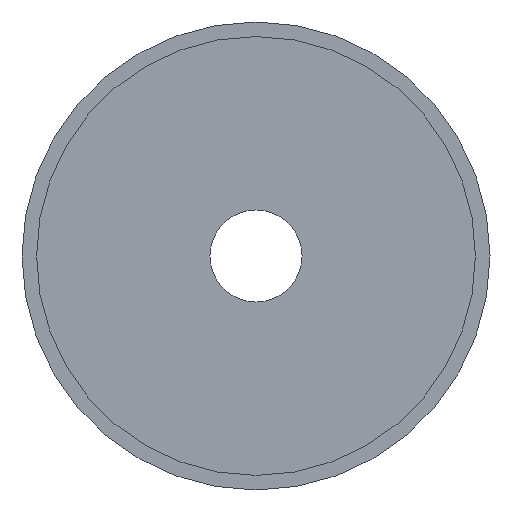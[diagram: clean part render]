
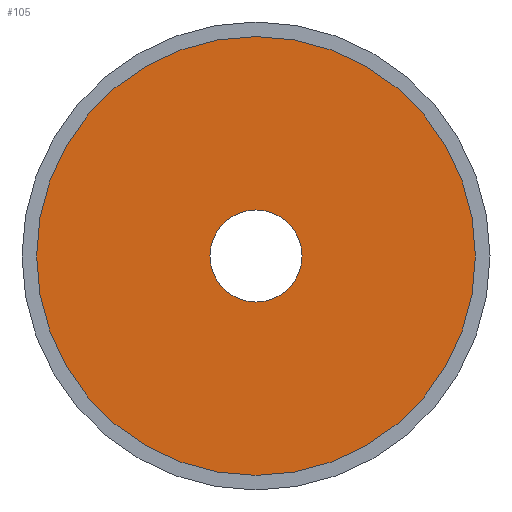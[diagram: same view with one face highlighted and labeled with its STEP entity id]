
A CAD part, left-side view. The second image highlights one B-rep face of the part: STEP entity #105.
In plain terms, the highlighted planar face has unit normal (-1, 0, 0).
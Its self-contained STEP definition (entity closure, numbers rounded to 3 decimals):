
#22 = VERTEX_POINT('',#23);
#23 = CARTESIAN_POINT('',(-5.715,4.763,12.));
#32 = CYLINDRICAL_SURFACE('',#33,4.763);
#33 = AXIS2_PLACEMENT_3D('',#34,#35,#36);
#34 = CARTESIAN_POINT('',(-5.715,0.,12.));
#35 = DIRECTION('',(-1.,-0.,-0.));
#36 = DIRECTION('',(0.,1.,0.));
#79 = EDGE_CURVE('',#22,#22,#80,.T.);
#80 = SURFACE_CURVE('',#81,(#86,#93),.PCURVE_S1.);
#81 = CIRCLE('',#82,4.763);
#82 = AXIS2_PLACEMENT_3D('',#83,#84,#85);
#83 = CARTESIAN_POINT('',(-5.715,0.,12.));
#84 = DIRECTION('',(1.,0.,0.));
#85 = DIRECTION('',(0.,1.,0.));
#86 = PCURVE('',#32,#87);
#87 = DEFINITIONAL_REPRESENTATION('',(#88),#92);
#88 = LINE('',#89,#90);
#89 = CARTESIAN_POINT('',(-0.,0.));
#90 = VECTOR('',#91,1.);
#91 = DIRECTION('',(-1.,0.));
#92 = ( GEOMETRIC_REPRESENTATION_CONTEXT(2) 
PARAMETRIC_REPRESENTATION_CONTEXT() REPRESENTATION_CONTEXT('2D SPACE',''
  ) );
#93 = PCURVE('',#94,#99);
#94 = PLANE('',#95);
#95 = AXIS2_PLACEMENT_3D('',#96,#97,#98);
#96 = CARTESIAN_POINT('',(-5.715,0.,12.));
#97 = DIRECTION('',(1.,0.,0.));
#98 = DIRECTION('',(-0.,0.,1.));
#99 = DEFINITIONAL_REPRESENTATION('',(#100),#104);
#100 = CIRCLE('',#101,4.763);
#101 = AXIS2_PLACEMENT_2D('',#102,#103);
#102 = CARTESIAN_POINT('',(0.,0.));
#103 = DIRECTION('',(0.,-1.));
#104 = ( GEOMETRIC_REPRESENTATION_CONTEXT(2) 
PARAMETRIC_REPRESENTATION_CONTEXT() REPRESENTATION_CONTEXT('2D SPACE',''
  ) );
#105 = ADVANCED_FACE('',(#106,#109),#94,.F.);
#106 = FACE_BOUND('',#107,.F.);
#107 = EDGE_LOOP('',(#108));
#108 = ORIENTED_EDGE('',*,*,#79,.T.);
#109 = FACE_BOUND('',#110,.F.);
#110 = EDGE_LOOP('',(#111));
#111 = ORIENTED_EDGE('',*,*,#112,.F.);
#112 = EDGE_CURVE('',#113,#113,#115,.T.);
#113 = VERTEX_POINT('',#114);
#114 = CARTESIAN_POINT('',(-5.715,1.,12.));
#115 = SURFACE_CURVE('',#116,(#121,#128),.PCURVE_S1.);
#116 = CIRCLE('',#117,1.);
#117 = AXIS2_PLACEMENT_3D('',#118,#119,#120);
#118 = CARTESIAN_POINT('',(-5.715,0.,12.));
#119 = DIRECTION('',(1.,0.,0.));
#120 = DIRECTION('',(0.,1.,0.));
#121 = PCURVE('',#94,#122);
#122 = DEFINITIONAL_REPRESENTATION('',(#123),#127);
#123 = CIRCLE('',#124,1.);
#124 = AXIS2_PLACEMENT_2D('',#125,#126);
#125 = CARTESIAN_POINT('',(0.,0.));
#126 = DIRECTION('',(0.,-1.));
#127 = ( GEOMETRIC_REPRESENTATION_CONTEXT(2) 
PARAMETRIC_REPRESENTATION_CONTEXT() REPRESENTATION_CONTEXT('2D SPACE',''
  ) );
#128 = PCURVE('',#129,#134);
#129 = CYLINDRICAL_SURFACE('',#130,1.);
#130 = AXIS2_PLACEMENT_3D('',#131,#132,#133);
#131 = CARTESIAN_POINT('',(-5.715,0.,12.));
#132 = DIRECTION('',(-1.,-0.,-0.));
#133 = DIRECTION('',(0.,1.,0.));
#134 = DEFINITIONAL_REPRESENTATION('',(#135),#139);
#135 = LINE('',#136,#137);
#136 = CARTESIAN_POINT('',(-0.,0.));
#137 = VECTOR('',#138,1.);
#138 = DIRECTION('',(-1.,0.));
#139 = ( GEOMETRIC_REPRESENTATION_CONTEXT(2) 
PARAMETRIC_REPRESENTATION_CONTEXT() REPRESENTATION_CONTEXT('2D SPACE',''
  ) );
